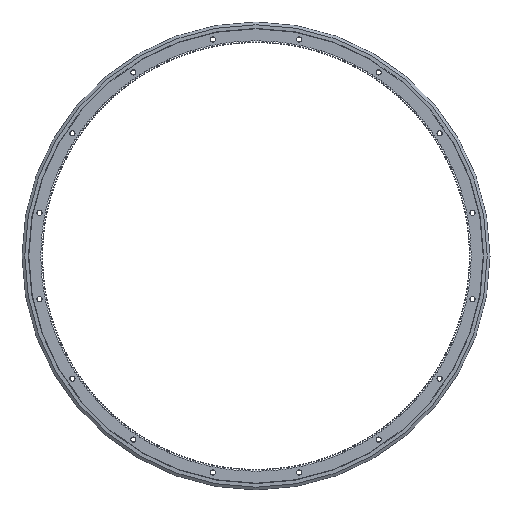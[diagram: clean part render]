
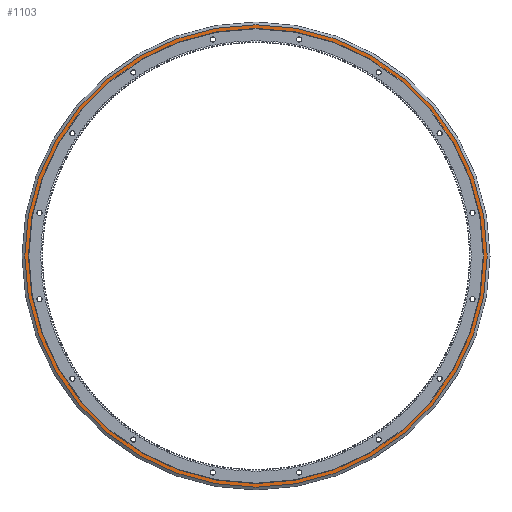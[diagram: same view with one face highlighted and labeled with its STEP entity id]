
A CAD part, front view. The second image highlights one B-rep face of the part: STEP entity #1103.
In plain terms, the highlighted planar face has unit normal (0, -1, 0).
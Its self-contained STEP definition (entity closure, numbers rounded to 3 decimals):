
#1103 = ADVANCED_FACE( '', ( #4691, #4692 ), #4693, .T. );
#4691 = FACE_OUTER_BOUND( '', #9746, .T. );
#4692 = FACE_BOUND( '', #9747, .T. );
#4693 = PLANE( '', #9748 );
#9746 = EDGE_LOOP( '', ( #22614 ) );
#9747 = EDGE_LOOP( '', ( #22615 ) );
#9748 = AXIS2_PLACEMENT_3D( '', #22616, #22617, #22618 );
#22614 = ORIENTED_EDGE( '', *, *, #40499, .T. );
#22615 = ORIENTED_EDGE( '', *, *, #40500, .F. );
#22616 = CARTESIAN_POINT( '', ( 318.15, 9.5, 0. ) );
#22617 = DIRECTION( '', ( 0., -1., 0. ) );
#22618 = DIRECTION( '', ( 0., 0., -1. ) );
#40499 = EDGE_CURVE( '', #52665, #52665, #52666, .T. );
#40500 = EDGE_CURVE( '', #52667, #52667, #52668, .T. );
#52665 = VERTEX_POINT( '', #71551 );
#52666 = CIRCLE( '', #71552, 323.836 );
#52667 = VERTEX_POINT( '', #71553 );
#52668 = CIRCLE( '', #71554, 318.15 );
#71551 = CARTESIAN_POINT( '', ( 0., 9.5, -323.836 ) );
#71552 = AXIS2_PLACEMENT_3D( '', #79996, #79997, #79998 );
#71553 = CARTESIAN_POINT( '', ( 0., 9.5, -318.15 ) );
#71554 = AXIS2_PLACEMENT_3D( '', #79999, #80000, #80001 );
#79996 = CARTESIAN_POINT( '', ( 0., 9.5, 0. ) );
#79997 = DIRECTION( '', ( 0., -1., 0. ) );
#79998 = DIRECTION( '', ( 0., 0., -1. ) );
#79999 = CARTESIAN_POINT( '', ( 0., 9.5, 0. ) );
#80000 = DIRECTION( '', ( 0., -1., 0. ) );
#80001 = DIRECTION( '', ( 0., 0., -1. ) );
